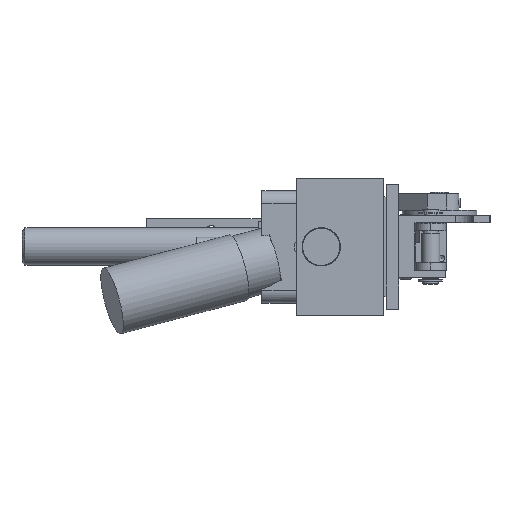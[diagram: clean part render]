
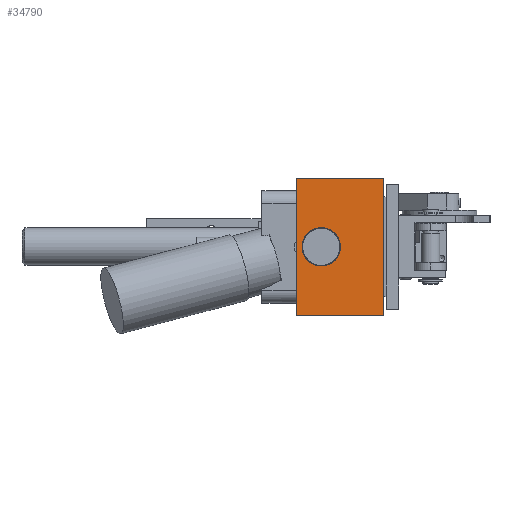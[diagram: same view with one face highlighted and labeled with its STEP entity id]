
A CAD part, left-side view. The second image highlights one B-rep face of the part: STEP entity #34790.
In plain terms, the highlighted planar face has unit normal (-1, 0, 0).
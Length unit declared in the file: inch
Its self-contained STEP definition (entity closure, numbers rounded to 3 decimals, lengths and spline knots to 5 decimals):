
#34101=CARTESIAN_POINT('',(-1.42257,-0.01531,0.34366));
#34102=VERTEX_POINT('',#34101);
#34109=CARTESIAN_POINT('',(-1.42257,-0.01531,-1.03134));
#34110=VERTEX_POINT('',#34109);
#34111=CARTESIAN_POINT('',(-1.42257,-0.01531,0.34366));
#34112=DIRECTION('',(0.0,0.0,-1.0));
#34113=VECTOR('',#34112,1.375);
#34114=LINE('',#34111,#34113);
#34115=EDGE_CURVE('',#34102,#34110,#34114,.T.);
#34749=CARTESIAN_POINT('',(-1.42257,0.42219,-0.34384));
#34750=DIRECTION('',(1.0,0.0,0.0));
#34751=DIRECTION('',(0.0,0.0,-1.0));
#34752=AXIS2_PLACEMENT_3D('',#34749,#34750,#34751);
#34753=PLANE('',#34752);
#34754=CARTESIAN_POINT('',(-1.42257,0.85969,-1.03134));
#34755=VERTEX_POINT('',#34754);
#34756=CARTESIAN_POINT('',(-1.42257,0.85969,0.34366));
#34757=VERTEX_POINT('',#34756);
#34758=CARTESIAN_POINT('',(-1.42257,0.85969,-1.03134));
#34759=DIRECTION('',(0.0,0.0,1.0));
#34760=VECTOR('',#34759,1.375);
#34761=LINE('',#34758,#34760);
#34762=EDGE_CURVE('',#34755,#34757,#34761,.T.);
#34763=ORIENTED_EDGE('',*,*,#34762,.F.);
#34764=CARTESIAN_POINT('',(-1.42257,-0.01531,-1.03134));
#34765=DIRECTION('',(0.0,1.0,0.0));
#34766=VECTOR('',#34765,0.875);
#34767=LINE('',#34764,#34766);
#34768=EDGE_CURVE('',#34110,#34755,#34767,.T.);
#34769=ORIENTED_EDGE('',*,*,#34768,.F.);
#34770=ORIENTED_EDGE('',*,*,#34115,.F.);
#34771=CARTESIAN_POINT('',(-1.42257,0.85969,0.34366));
#34772=DIRECTION('',(0.0,-1.0,0.0));
#34773=VECTOR('',#34772,0.875);
#34774=LINE('',#34771,#34773);
#34775=EDGE_CURVE('',#34757,#34102,#34774,.T.);
#34776=ORIENTED_EDGE('',*,*,#34775,.F.);
#34777=EDGE_LOOP('',(#34763,#34769,#34770,#34776));
#34778=FACE_OUTER_BOUND('',#34777,.T.);
#34779=CARTESIAN_POINT('',(-1.42257,0.66059,-0.38943));
#34780=VERTEX_POINT('',#34779);
#34781=CARTESIAN_POINT('',(-1.42257,0.60969,-0.34434));
#34782=DIRECTION('',(1.,0.,0.));
#34783=DIRECTION('',(0.,-0.749,0.663));
#34784=AXIS2_PLACEMENT_3D('',#34781,#34782,#34783);
#34785=CIRCLE('',#34784,0.068);
#34786=EDGE_CURVE('',#34780,#34780,#34785,.T.);
#34787=ORIENTED_EDGE('',*,*,#34786,.T.);
#34788=EDGE_LOOP('',(#34787));
#34789=FACE_BOUND('',#34788,.T.);
#34790=ADVANCED_FACE('',(#34778,#34789),#34753,.F.);
